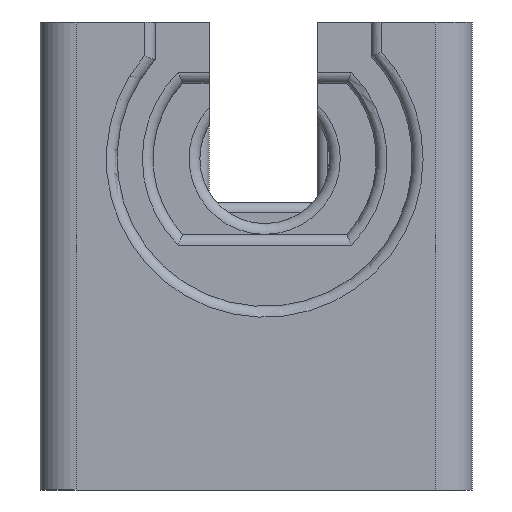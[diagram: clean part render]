
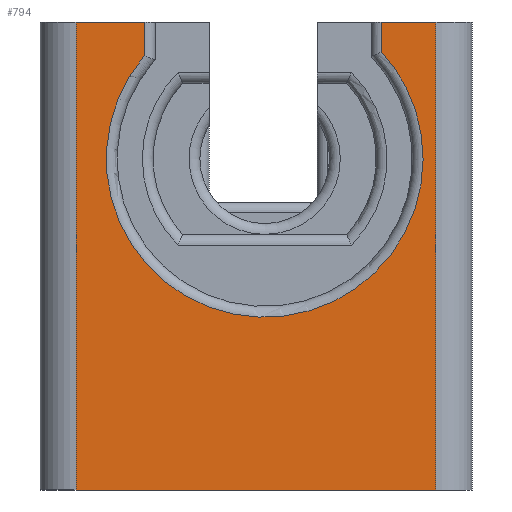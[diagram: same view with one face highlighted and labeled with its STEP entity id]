
A CAD part, left-side view. The second image highlights one B-rep face of the part: STEP entity #794.
In plain terms, the highlighted planar face has unit normal (-1, 0, 0).
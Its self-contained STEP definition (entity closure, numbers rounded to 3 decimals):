
#737=AXIS2_PLACEMENT_3D('Plane Axis2P3D',#734,#735,#736) ;
#401=CARTESIAN_POINT('Vertex',(-69.407,15.,13.)) ;
#404=CARTESIAN_POINT('Line Origine',(-69.407,15.,6.5)) ;
#408=CARTESIAN_POINT('Vertex',(-69.407,15.,0.)) ;
#439=CARTESIAN_POINT('Vertex',(-69.407,25.,13.)) ;
#455=CARTESIAN_POINT('Vertex',(-69.407,25.,0.)) ;
#458=CARTESIAN_POINT('Line Origine',(-69.407,25.,6.5)) ;
#575=CARTESIAN_POINT('Line Origine',(-69.407,20.,0.)) ;
#734=CARTESIAN_POINT('Axis2P3D Location',(-69.407,0.,-5.)) ;
#739=CARTESIAN_POINT('Line Origine',(-69.407,20.,13.)) ;
#743=CARTESIAN_POINT('Vertex',(-69.407,23.102,13.)) ;
#746=CARTESIAN_POINT('Line Origine',(-69.407,20.,13.)) ;
#750=CARTESIAN_POINT('Vertex',(-69.407,16.505,13.)) ;
#753=CARTESIAN_POINT('Line Origine',(-69.407,16.505,6.5)) ;
#757=CARTESIAN_POINT('Vertex',(-69.407,16.505,12.162)) ;
#761=CARTESIAN_POINT('Control Point',(-69.407,23.102,12.06)) ;
#762=CARTESIAN_POINT('Control Point',(-69.407,23.758,11.293)) ;
#763=CARTESIAN_POINT('Control Point',(-69.407,24.194,10.338)) ;
#764=CARTESIAN_POINT('Control Point',(-69.407,24.337,9.279)) ;
#765=CARTESIAN_POINT('Control Point',(-69.407,24.003,7.206)) ;
#766=CARTESIAN_POINT('Control Point',(-69.407,22.62,5.625)) ;
#767=CARTESIAN_POINT('Control Point',(-69.407,21.713,5.059)) ;
#768=CARTESIAN_POINT('Control Point',(-69.407,19.686,4.511)) ;
#769=CARTESIAN_POINT('Control Point',(-69.407,17.676,5.121)) ;
#770=CARTESIAN_POINT('Control Point',(-69.407,16.787,5.715)) ;
#771=CARTESIAN_POINT('Control Point',(-69.407,15.455,7.338)) ;
#772=CARTESIAN_POINT('Control Point',(-69.407,15.184,9.42)) ;
#773=CARTESIAN_POINT('Control Point',(-69.407,15.36,10.475)) ;
#774=CARTESIAN_POINT('Control Point',(-69.407,15.825,11.416)) ;
#775=CARTESIAN_POINT('Control Point',(-69.407,16.505,12.162)) ;
#776=CARTESIAN_POINT('Vertex',(-69.407,23.102,12.06)) ;
#779=CARTESIAN_POINT('Line Origine',(-69.407,23.102,6.5)) ;
#405=DIRECTION('Vector Direction',(0.,0.,1.)) ;
#459=DIRECTION('Vector Direction',(0.,0.,1.)) ;
#576=DIRECTION('Vector Direction',(0.,-1.,0.)) ;
#735=DIRECTION('Axis2P3D Direction',(-1.,0.,0.)) ;
#736=DIRECTION('Axis2P3D XDirection',(0.,0.,1.)) ;
#740=DIRECTION('Vector Direction',(0.,1.,0.)) ;
#747=DIRECTION('Vector Direction',(0.,1.,0.)) ;
#754=DIRECTION('Vector Direction',(0.,0.,1.)) ;
#780=DIRECTION('Vector Direction',(0.,0.,1.)) ;
#406=VECTOR('Line Direction',#405,1.) ;
#460=VECTOR('Line Direction',#459,1.) ;
#577=VECTOR('Line Direction',#576,1.) ;
#741=VECTOR('Line Direction',#740,1.) ;
#748=VECTOR('Line Direction',#747,1.) ;
#755=VECTOR('Line Direction',#754,1.) ;
#781=VECTOR('Line Direction',#780,1.) ;
#785=ORIENTED_EDGE('',*,*,#745,.F.) ;
#786=ORIENTED_EDGE('',*,*,#462,.F.) ;
#787=ORIENTED_EDGE('',*,*,#579,.T.) ;
#788=ORIENTED_EDGE('',*,*,#410,.T.) ;
#789=ORIENTED_EDGE('',*,*,#752,.F.) ;
#790=ORIENTED_EDGE('',*,*,#759,.F.) ;
#791=ORIENTED_EDGE('',*,*,#778,.F.) ;
#792=ORIENTED_EDGE('',*,*,#783,.F.) ;
#794=ADVANCED_FACE('\X2\96F64EF651E04F554F53\X0\',(#793),#738,.T.) ;
#760=B_SPLINE_CURVE_WITH_KNOTS('',5,(#761,#762,#763,#764,#765,#766,#767,#768,#769,#770,#771,#772,#773,#774,#775),.UNSPECIFIED.,.F.,.U.,(6,3,3,3,6),(3.798,8.844,13.891,18.938,23.984),.UNSPECIFIED.) ;
#410=EDGE_CURVE('',#409,#402,#407,.T.) ;
#462=EDGE_CURVE('',#456,#440,#461,.T.) ;
#579=EDGE_CURVE('',#456,#409,#578,.T.) ;
#745=EDGE_CURVE('',#440,#744,#742,.F.) ;
#752=EDGE_CURVE('',#751,#402,#749,.F.) ;
#759=EDGE_CURVE('',#758,#751,#756,.T.) ;
#778=EDGE_CURVE('',#777,#758,#760,.T.) ;
#783=EDGE_CURVE('',#744,#777,#782,.F.) ;
#784=EDGE_LOOP('',(#785,#786,#787,#788,#789,#790,#791,#792)) ;
#793=FACE_OUTER_BOUND('',#784,.T.) ;
#407=LINE('Line',#404,#406) ;
#461=LINE('Line',#458,#460) ;
#578=LINE('Line',#575,#577) ;
#742=LINE('Line',#739,#741) ;
#749=LINE('Line',#746,#748) ;
#756=LINE('Line',#753,#755) ;
#782=LINE('Line',#779,#781) ;
#738=PLANE('Plane',#737) ;
#402=VERTEX_POINT('',#401) ;
#409=VERTEX_POINT('',#408) ;
#440=VERTEX_POINT('',#439) ;
#456=VERTEX_POINT('',#455) ;
#744=VERTEX_POINT('',#743) ;
#751=VERTEX_POINT('',#750) ;
#758=VERTEX_POINT('',#757) ;
#777=VERTEX_POINT('',#776) ;
